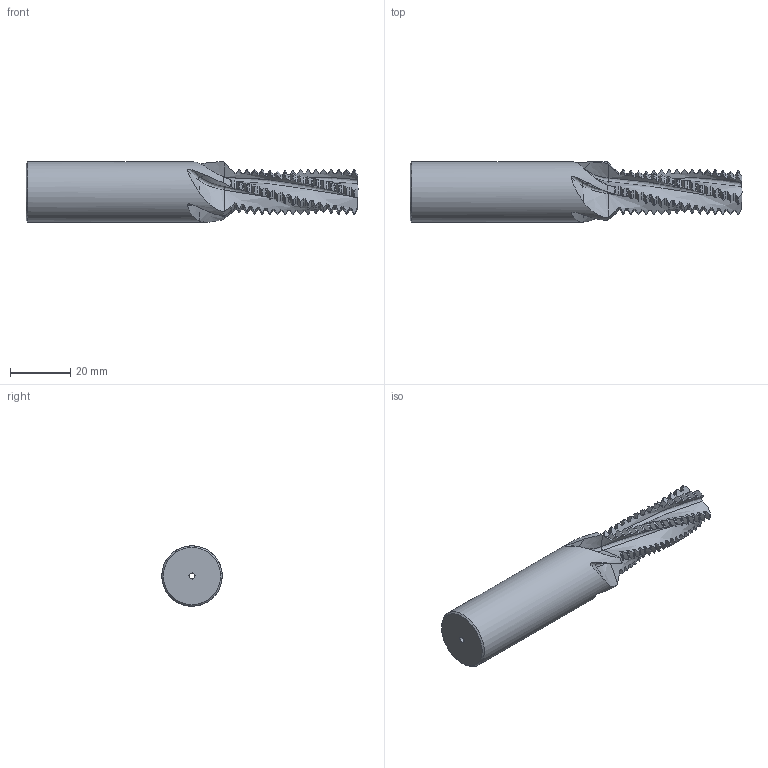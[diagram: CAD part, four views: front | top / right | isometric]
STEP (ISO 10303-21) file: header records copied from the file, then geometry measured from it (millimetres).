
FILE_DESCRIPTION(/* description */ (''),/* implementation_level */ '2;1');
FILE_NAME(/* name */ '00036548-STEP',/* time_stamp */ '2024-02-20T14:33:20+01:00',/* author */ (''),/* organization */ (''),/* preprocessor_version */ 'ST-DEVELOPER v16.5',/* originating_system */ 'HiCAD 2017 2201.0 Build 268',/* authorisation */ '');
FILE_SCHEMA (('AUTOMOTIVE_DESIGN { 1 0 10303 214 1 1 1 1 }'));
Products named in the file (2): Root; ROTATIONSTEIL_0
Assembly tree (1 placements, depth 2):
  Root
    ROTATIONSTEIL_0
Bounding box: 110 x 20 x 20 mm (x, y, z)
Volume: 22904.3 mm3; surface area: 8264.5 mm2
Topology: 1 solids, 1 shells, 545 faces, 1610 edges, 1067 vertices
Faces by surface type: cone 171, cylinder 167, torus 160, bspline 45, plane 2
Full cylindrical faces by diameter (mm): 2 x1, 20 x1
Entity records: 56744 total; most frequent: CARTESIAN_POINT 29125, PRESENTATION_STYLE_ASSIGNMENT 3209, COLOUR_RGB 3209, DRAUGHTING_PRE_DEFINED_CURVE_FONT 3208, CURVE_STYLE 3208, OVER_RIDING_STYLED_ITEM 3208, ORIENTED_EDGE 3208, DIRECTION 2012
